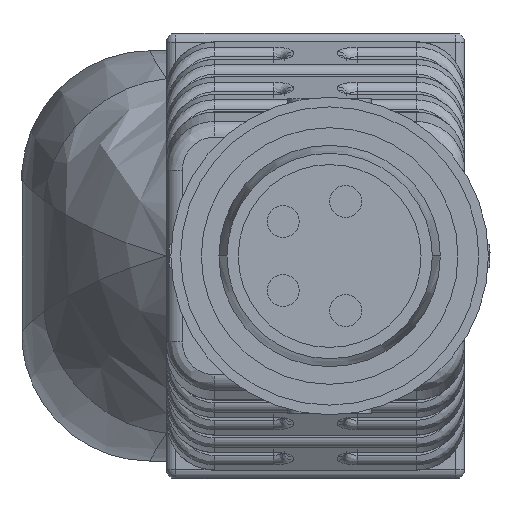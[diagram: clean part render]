
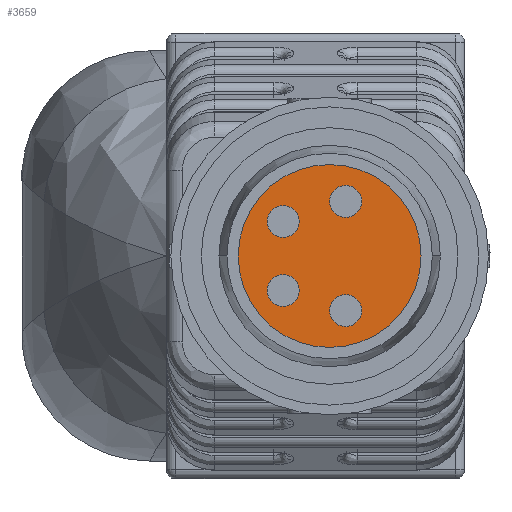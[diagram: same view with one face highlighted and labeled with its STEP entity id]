
A CAD part, left-side view. The second image highlights one B-rep face of the part: STEP entity #3659.
In plain terms, the highlighted planar face has unit normal (-1, 0, 0).
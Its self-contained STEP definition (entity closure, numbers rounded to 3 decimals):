
#69 = CIRCLE ( 'NONE', #8286, 0.5 ) ;
#219 = CIRCLE ( 'NONE', #11312, 0.5 ) ;
#320 = EDGE_CURVE ( 'NONE', #17231, #10445, #219, .T. ) ;
#472 = CARTESIAN_POINT ( 'NONE',  ( -33.7, 0., 0. ) ) ;
#590 = CIRCLE ( 'NONE', #1852, 2.85 ) ;
#617 = EDGE_CURVE ( 'NONE', #9552, #17806, #15189, .T. ) ;
#1027 = DIRECTION ( 'NONE',  ( 1., 0., 0. ) ) ;
#1046 = ORIENTED_EDGE ( 'NONE', *, *, #14302, .T. ) ;
#1065 = CARTESIAN_POINT ( 'NONE',  ( -33.7, -4.168, -0.735 ) ) ;
#1070 = CARTESIAN_POINT ( 'NONE',  ( -33.7, 0., 1.7 ) ) ;
#1157 = VERTEX_POINT ( 'NONE', #19065 ) ;
#1238 = DIRECTION ( 'NONE',  ( 0., 1., 0. ) ) ;
#1269 = CARTESIAN_POINT ( 'NONE',  ( -33.7, -0.5, -1.7 ) ) ;
#1664 = DIRECTION ( 'NONE',  ( -1., 0., 0. ) ) ;
#1852 = AXIS2_PLACEMENT_3D ( 'NONE', #16196, #19557, #1238 ) ;
#2161 = CARTESIAN_POINT ( 'NONE',  ( -33.7, 1.45, 1.075 ) ) ;
#2188 = CIRCLE ( 'NONE', #13306, 2.85 ) ;
#2567 = FACE_BOUND ( 'NONE', #6307, .T. ) ;
#2659 = PLANE ( 'NONE',  #2899 ) ;
#2886 = ORIENTED_EDGE ( 'NONE', *, *, #14848, .T. ) ;
#2899 = AXIS2_PLACEMENT_3D ( 'NONE', #1065, #7002, #17909 ) ;
#2913 = DIRECTION ( 'NONE',  ( 0., -1., 0. ) ) ;
#2950 = DIRECTION ( 'NONE',  ( 0., 0., 1. ) ) ;
#3540 = DIRECTION ( 'NONE',  ( 0., 1., 0. ) ) ;
#3658 = AXIS2_PLACEMENT_3D ( 'NONE', #7710, #4441, #18230 ) ;
#3659 = ADVANCED_FACE ( 'NONE', ( #2567, #18386, #6177, #9992, #7300 ), #2659, .T. ) ;
#4192 = VERTEX_POINT ( 'NONE', #18942 ) ;
#4441 = DIRECTION ( 'NONE',  ( 1., 0., 0. ) ) ;
#4536 = CARTESIAN_POINT ( 'NONE',  ( -33.7, 1.45, -1.075 ) ) ;
#4643 = CARTESIAN_POINT ( 'NONE',  ( -33.7, 0.95, 1.075 ) ) ;
#5121 = DIRECTION ( 'NONE',  ( 0., 0., 1. ) ) ;
#5166 = ORIENTED_EDGE ( 'NONE', *, *, #617, .F. ) ;
#5231 = CIRCLE ( 'NONE', #3658, 0.5 ) ;
#5305 = VERTEX_POINT ( 'NONE', #4643 ) ;
#6177 = FACE_BOUND ( 'NONE', #12356, .T. ) ;
#6307 = EDGE_LOOP ( 'NONE', ( #14263, #2886 ) ) ;
#6424 = DIRECTION ( 'NONE',  ( 1., 0., 0. ) ) ;
#6808 = CIRCLE ( 'NONE', #11928, 0.5 ) ;
#7002 = DIRECTION ( 'NONE',  ( -1., 0., 0. ) ) ;
#7017 = DIRECTION ( 'NONE',  ( 0., 0., 1. ) ) ;
#7300 = FACE_OUTER_BOUND ( 'NONE', #8377, .T. ) ;
#7452 = CIRCLE ( 'NONE', #16730, 0.5 ) ;
#7710 = CARTESIAN_POINT ( 'NONE',  ( -33.7, -0.5, 1.7 ) ) ;
#7820 = CARTESIAN_POINT ( 'NONE',  ( -33.7, 1.45, -1.075 ) ) ;
#7954 = ORIENTED_EDGE ( 'NONE', *, *, #11611, .T. ) ;
#8189 = DIRECTION ( 'NONE',  ( 1., 0., 0. ) ) ;
#8286 = AXIS2_PLACEMENT_3D ( 'NONE', #10919, #14126, #17333 ) ;
#8317 = EDGE_CURVE ( 'NONE', #13129, #15007, #2188, .T. ) ;
#8339 = AXIS2_PLACEMENT_3D ( 'NONE', #16188, #1027, #2913 ) ;
#8377 = EDGE_LOOP ( 'NONE', ( #8489, #17204 ) ) ;
#8393 = CARTESIAN_POINT ( 'NONE',  ( -33.7, 2.85, 0. ) ) ;
#8489 = ORIENTED_EDGE ( 'NONE', *, *, #8317, .T. ) ;
#8914 = CIRCLE ( 'NONE', #12805, 0.5 ) ;
#8976 = EDGE_LOOP ( 'NONE', ( #19162, #11195 ) ) ;
#8984 = CARTESIAN_POINT ( 'NONE',  ( -33.7, -2.85, 0. ) ) ;
#8991 = DIRECTION ( 'NONE',  ( -1., 0., 0. ) ) ;
#9552 = VERTEX_POINT ( 'NONE', #14143 ) ;
#9992 = FACE_BOUND ( 'NONE', #8976, .T. ) ;
#10445 = VERTEX_POINT ( 'NONE', #13086 ) ;
#10919 = CARTESIAN_POINT ( 'NONE',  ( -33.7, -0.5, 1.7 ) ) ;
#11195 = ORIENTED_EDGE ( 'NONE', *, *, #14747, .T. ) ;
#11300 = DIRECTION ( 'NONE',  ( -1., 0., 0. ) ) ;
#11312 = AXIS2_PLACEMENT_3D ( 'NONE', #7820, #6424, #5121 ) ;
#11337 = AXIS2_PLACEMENT_3D ( 'NONE', #1269, #1664, #2950 ) ;
#11611 = EDGE_CURVE ( 'NONE', #5305, #4192, #16994, .T. ) ;
#11928 = AXIS2_PLACEMENT_3D ( 'NONE', #12037, #8991, #7017 ) ;
#12037 = CARTESIAN_POINT ( 'NONE',  ( -33.7, -0.5, -1.7 ) ) ;
#12131 = ORIENTED_EDGE ( 'NONE', *, *, #16573, .F. ) ;
#12144 = DIRECTION ( 'NONE',  ( 1., 0., 0. ) ) ;
#12355 = CARTESIAN_POINT ( 'NONE',  ( -33.7, 1.45, -0.575 ) ) ;
#12356 = EDGE_LOOP ( 'NONE', ( #7954, #1046 ) ) ;
#12805 = AXIS2_PLACEMENT_3D ( 'NONE', #4536, #12144, #16738 ) ;
#12986 = EDGE_CURVE ( 'NONE', #1157, #14159, #5231, .T. ) ;
#13086 = CARTESIAN_POINT ( 'NONE',  ( -33.7, 1.45, -1.575 ) ) ;
#13129 = VERTEX_POINT ( 'NONE', #8393 ) ;
#13306 = AXIS2_PLACEMENT_3D ( 'NONE', #472, #11300, #3540 ) ;
#14126 = DIRECTION ( 'NONE',  ( 1., 0., 0. ) ) ;
#14143 = CARTESIAN_POINT ( 'NONE',  ( -33.7, -0.5, -1.2 ) ) ;
#14159 = VERTEX_POINT ( 'NONE', #1070 ) ;
#14263 = ORIENTED_EDGE ( 'NONE', *, *, #12986, .T. ) ;
#14302 = EDGE_CURVE ( 'NONE', #4192, #5305, #7452, .T. ) ;
#14747 = EDGE_CURVE ( 'NONE', #10445, #17231, #8914, .T. ) ;
#14848 = EDGE_CURVE ( 'NONE', #14159, #1157, #69, .T. ) ;
#15007 = VERTEX_POINT ( 'NONE', #8984 ) ;
#15189 = CIRCLE ( 'NONE', #11337, 0.5 ) ;
#15220 = EDGE_LOOP ( 'NONE', ( #5166, #12131 ) ) ;
#15714 = DIRECTION ( 'NONE',  ( 0., -1., 0. ) ) ;
#16188 = CARTESIAN_POINT ( 'NONE',  ( -33.7, 1.45, 1.075 ) ) ;
#16196 = CARTESIAN_POINT ( 'NONE',  ( -33.7, 0., 0. ) ) ;
#16573 = EDGE_CURVE ( 'NONE', #17806, #9552, #6808, .T. ) ;
#16730 = AXIS2_PLACEMENT_3D ( 'NONE', #2161, #8189, #15714 ) ;
#16738 = DIRECTION ( 'NONE',  ( 0., 0., 1. ) ) ;
#16994 = CIRCLE ( 'NONE', #8339, 0.5 ) ;
#17204 = ORIENTED_EDGE ( 'NONE', *, *, #19590, .T. ) ;
#17231 = VERTEX_POINT ( 'NONE', #12355 ) ;
#17333 = DIRECTION ( 'NONE',  ( 0., -1., 0. ) ) ;
#17806 = VERTEX_POINT ( 'NONE', #18122 ) ;
#17909 = DIRECTION ( 'NONE',  ( 0., 0.574, 0.819 ) ) ;
#18122 = CARTESIAN_POINT ( 'NONE',  ( -33.7, -0.5, -2.2 ) ) ;
#18230 = DIRECTION ( 'NONE',  ( 0., -1., 0. ) ) ;
#18386 = FACE_BOUND ( 'NONE', #15220, .T. ) ;
#18942 = CARTESIAN_POINT ( 'NONE',  ( -33.7, 1.95, 1.075 ) ) ;
#19065 = CARTESIAN_POINT ( 'NONE',  ( -33.7, -1., 1.7 ) ) ;
#19162 = ORIENTED_EDGE ( 'NONE', *, *, #320, .T. ) ;
#19557 = DIRECTION ( 'NONE',  ( -1., 0., 0. ) ) ;
#19590 = EDGE_CURVE ( 'NONE', #15007, #13129, #590, .T. ) ;
